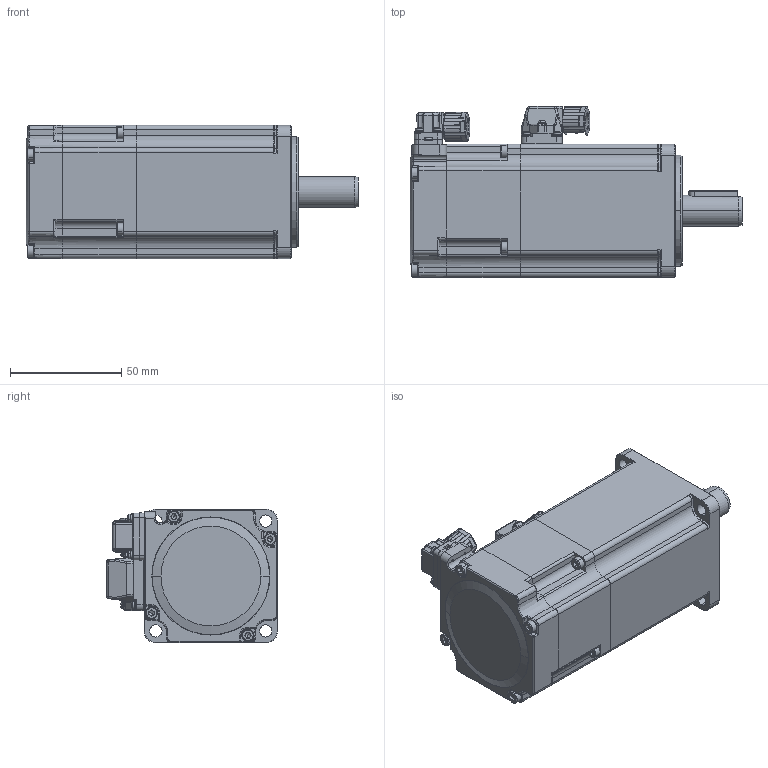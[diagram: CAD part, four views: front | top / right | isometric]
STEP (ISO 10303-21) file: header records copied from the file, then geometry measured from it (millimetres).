
FILE_DESCRIPTION (( 'STEP AP214' ), '1' );
FILE_NAME ('ACM0H 400W价陬.STEP', '2023-07-27T07:40:02', ( 'Windows 蚚誧' ), ( 'Organization' ), 'SwSTEP 2.0', 'SolidWorks 2021', '' );
FILE_SCHEMA (( 'AUTOMOTIVE_DESIGN' ));
Length unit declared in the file: millimetre
Products named in the file (1): ACM0H  400W价陬
Bounding box: 149.5 x 77 x 60 mm (x, y, z)
Surface area: 43753 mm2 (no closed solid volume)
Topology: 0 solids, 48 shells, 1195 faces, 3801 edges, 2509 vertices
Faces by surface type: cylinder 479, plane 405, torus 190, cone 74, sphere 27, bspline 20
Entity records: 58302 total; most frequent: CARTESIAN_POINT 12398, DIRECTION 7155, ORIENTED_EDGE 6237, EDGE_CURVE 3774, AXIS2_PLACEMENT_3D 2850, VERTEX_POINT 2509, CIRCLE 1674, VECTOR 1455
